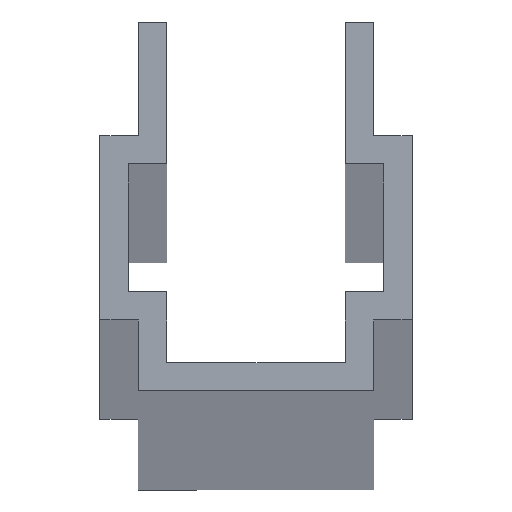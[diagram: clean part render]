
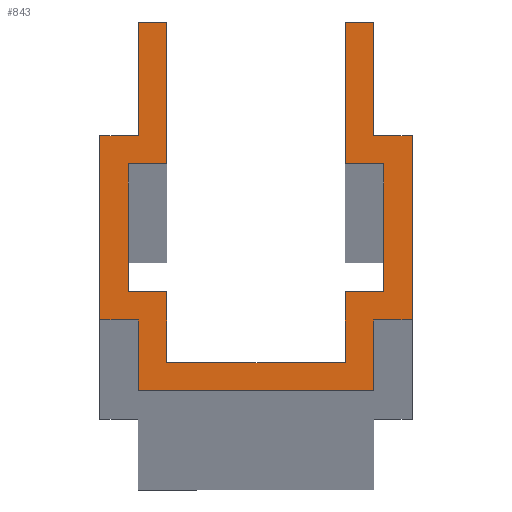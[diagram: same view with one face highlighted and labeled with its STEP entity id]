
A CAD part, top view. The second image highlights one B-rep face of the part: STEP entity #843.
In plain terms, the highlighted planar face has unit normal (0, 0, 1).
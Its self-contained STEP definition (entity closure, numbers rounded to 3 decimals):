
#73=CARTESIAN_POINT('',(-4.15,-10.5,2000.));
#74=VERTEX_POINT('',#73);
#75=CARTESIAN_POINT('',(-5.5,-10.5,2000.));
#76=VERTEX_POINT('',#75);
#77=CARTESIAN_POINT('',(-4.15,-10.5,2000.));
#78=DIRECTION('',(-1.0,0.0,0.0));
#79=VECTOR('',#78,1.35);
#80=LINE('',#77,#79);
#81=EDGE_CURVE('',#74,#76,#80,.T.);
#113=CARTESIAN_POINT('',(-5.5,-4.,2000.));
#114=VERTEX_POINT('',#113);
#115=CARTESIAN_POINT('',(-5.5,-10.5,2000.));
#116=DIRECTION('',(0.0,1.0,0.0));
#117=VECTOR('',#116,6.5);
#118=LINE('',#115,#117);
#119=EDGE_CURVE('',#76,#114,#118,.T.);
#144=CARTESIAN_POINT('',(-4.15,-4.,2000.));
#145=VERTEX_POINT('',#144);
#146=CARTESIAN_POINT('',(-5.5,-4.,2000.));
#147=DIRECTION('',(1.0,0.0,0.0));
#148=VECTOR('',#147,1.35);
#149=LINE('',#146,#148);
#150=EDGE_CURVE('',#114,#145,#149,.T.);
#175=CARTESIAN_POINT('',(-4.15,0.,2000.));
#176=VERTEX_POINT('',#175);
#177=CARTESIAN_POINT('',(-4.15,-4.,2000.));
#178=DIRECTION('',(0.0,1.0,0.0));
#179=VECTOR('',#178,4.);
#180=LINE('',#177,#179);
#181=EDGE_CURVE('',#145,#176,#180,.T.);
#206=CARTESIAN_POINT('',(-3.15,0.,2000.));
#207=VERTEX_POINT('',#206);
#208=CARTESIAN_POINT('',(-4.15,0.,2000.));
#209=DIRECTION('',(1.0,0.0,0.0));
#210=VECTOR('',#209,1.0);
#211=LINE('',#208,#210);
#212=EDGE_CURVE('',#176,#207,#211,.T.);
#237=CARTESIAN_POINT('',(-3.15,-5.,2000.));
#238=VERTEX_POINT('',#237);
#239=CARTESIAN_POINT('',(-3.15,0.,2000.));
#240=DIRECTION('',(0.0,-1.0,0.0));
#241=VECTOR('',#240,5.);
#242=LINE('',#239,#241);
#243=EDGE_CURVE('',#207,#238,#242,.T.);
#268=CARTESIAN_POINT('',(-4.5,-5.,2000.));
#269=VERTEX_POINT('',#268);
#270=CARTESIAN_POINT('',(-3.15,-5.,2000.));
#271=DIRECTION('',(-1.0,0.0,0.0));
#272=VECTOR('',#271,1.35);
#273=LINE('',#270,#272);
#274=EDGE_CURVE('',#238,#269,#273,.T.);
#299=CARTESIAN_POINT('',(-4.5,-9.5,2000.));
#300=VERTEX_POINT('',#299);
#301=CARTESIAN_POINT('',(-4.5,-5.,2000.));
#302=DIRECTION('',(0.0,-1.0,0.0));
#303=VECTOR('',#302,4.5);
#304=LINE('',#301,#303);
#305=EDGE_CURVE('',#269,#300,#304,.T.);
#330=CARTESIAN_POINT('',(-3.15,-9.5,2000.));
#331=VERTEX_POINT('',#330);
#332=CARTESIAN_POINT('',(-4.5,-9.5,2000.));
#333=DIRECTION('',(1.0,0.0,0.0));
#334=VECTOR('',#333,1.35);
#335=LINE('',#332,#334);
#336=EDGE_CURVE('',#300,#331,#335,.T.);
#361=CARTESIAN_POINT('',(-3.15,-12.,2000.));
#362=VERTEX_POINT('',#361);
#363=CARTESIAN_POINT('',(-3.15,-9.5,2000.));
#364=DIRECTION('',(0.0,-1.0,0.0));
#365=VECTOR('',#364,2.5);
#366=LINE('',#363,#365);
#367=EDGE_CURVE('',#331,#362,#366,.T.);
#392=CARTESIAN_POINT('',(3.15,-12.,2000.));
#393=VERTEX_POINT('',#392);
#394=CARTESIAN_POINT('',(-3.15,-12.,2000.));
#395=DIRECTION('',(1.0,0.0,0.0));
#396=VECTOR('',#395,6.3);
#397=LINE('',#394,#396);
#398=EDGE_CURVE('',#362,#393,#397,.T.);
#423=CARTESIAN_POINT('',(3.15,-9.5,2000.));
#424=VERTEX_POINT('',#423);
#425=CARTESIAN_POINT('',(3.15,-12.,2000.));
#426=DIRECTION('',(0.0,1.0,0.0));
#427=VECTOR('',#426,2.5);
#428=LINE('',#425,#427);
#429=EDGE_CURVE('',#393,#424,#428,.T.);
#454=CARTESIAN_POINT('',(4.5,-9.5,2000.));
#455=VERTEX_POINT('',#454);
#456=CARTESIAN_POINT('',(3.15,-9.5,2000.));
#457=DIRECTION('',(1.0,0.0,0.0));
#458=VECTOR('',#457,1.35);
#459=LINE('',#456,#458);
#460=EDGE_CURVE('',#424,#455,#459,.T.);
#485=CARTESIAN_POINT('',(4.5,-5.,2000.));
#486=VERTEX_POINT('',#485);
#487=CARTESIAN_POINT('',(4.5,-9.5,2000.));
#488=DIRECTION('',(0.0,1.0,0.0));
#489=VECTOR('',#488,4.5);
#490=LINE('',#487,#489);
#491=EDGE_CURVE('',#455,#486,#490,.T.);
#516=CARTESIAN_POINT('',(3.15,-5.,2000.));
#517=VERTEX_POINT('',#516);
#518=CARTESIAN_POINT('',(4.5,-5.,2000.));
#519=DIRECTION('',(-1.0,0.0,0.0));
#520=VECTOR('',#519,1.35);
#521=LINE('',#518,#520);
#522=EDGE_CURVE('',#486,#517,#521,.T.);
#547=CARTESIAN_POINT('',(3.15,0.,2000.));
#548=VERTEX_POINT('',#547);
#549=CARTESIAN_POINT('',(3.15,-5.,2000.));
#550=DIRECTION('',(0.0,1.0,0.0));
#551=VECTOR('',#550,5.);
#552=LINE('',#549,#551);
#553=EDGE_CURVE('',#517,#548,#552,.T.);
#578=CARTESIAN_POINT('',(4.15,0.,2000.));
#579=VERTEX_POINT('',#578);
#580=CARTESIAN_POINT('',(3.15,0.,2000.));
#581=DIRECTION('',(1.0,0.0,0.0));
#582=VECTOR('',#581,1.);
#583=LINE('',#580,#582);
#584=EDGE_CURVE('',#548,#579,#583,.T.);
#609=CARTESIAN_POINT('',(4.15,-4.,2000.));
#610=VERTEX_POINT('',#609);
#611=CARTESIAN_POINT('',(4.15,0.,2000.));
#612=DIRECTION('',(0.0,-1.0,0.0));
#613=VECTOR('',#612,4.);
#614=LINE('',#611,#613);
#615=EDGE_CURVE('',#579,#610,#614,.T.);
#640=CARTESIAN_POINT('',(5.5,-4.,2000.));
#641=VERTEX_POINT('',#640);
#642=CARTESIAN_POINT('',(4.15,-4.,2000.));
#643=DIRECTION('',(1.0,0.0,0.0));
#644=VECTOR('',#643,1.35);
#645=LINE('',#642,#644);
#646=EDGE_CURVE('',#610,#641,#645,.T.);
#671=CARTESIAN_POINT('',(5.5,-10.5,2000.));
#672=VERTEX_POINT('',#671);
#673=CARTESIAN_POINT('',(5.5,-4.,2000.));
#674=DIRECTION('',(0.0,-1.0,0.0));
#675=VECTOR('',#674,6.5);
#676=LINE('',#673,#675);
#677=EDGE_CURVE('',#641,#672,#676,.T.);
#702=CARTESIAN_POINT('',(4.15,-10.5,2000.));
#703=VERTEX_POINT('',#702);
#704=CARTESIAN_POINT('',(5.5,-10.5,2000.));
#705=DIRECTION('',(-1.0,0.0,0.0));
#706=VECTOR('',#705,1.35);
#707=LINE('',#704,#706);
#708=EDGE_CURVE('',#672,#703,#707,.T.);
#733=CARTESIAN_POINT('',(4.15,-13.0,2000.));
#734=VERTEX_POINT('',#733);
#735=CARTESIAN_POINT('',(4.15,-10.5,2000.));
#736=DIRECTION('',(0.0,-1.0,0.0));
#737=VECTOR('',#736,2.5);
#738=LINE('',#735,#737);
#739=EDGE_CURVE('',#703,#734,#738,.T.);
#764=CARTESIAN_POINT('',(-4.15,-13.,2000.));
#765=VERTEX_POINT('',#764);
#766=CARTESIAN_POINT('',(4.15,-13.0,2000.));
#767=DIRECTION('',(-1.0,0.0,0.0));
#768=VECTOR('',#767,8.3);
#769=LINE('',#766,#768);
#770=EDGE_CURVE('',#734,#765,#769,.T.);
#795=CARTESIAN_POINT('',(-4.15,-13.,2000.));
#796=DIRECTION('',(0.0,1.0,0.0));
#797=VECTOR('',#796,2.5);
#798=LINE('',#795,#797);
#799=EDGE_CURVE('',#765,#74,#798,.T.);
#812=CARTESIAN_POINT('',(0.,-7.426,2000.));
#813=DIRECTION('',(0.0,0.0,1.0));
#814=DIRECTION('',(1.0,0.0,0.0));
#815=AXIS2_PLACEMENT_3D('',#812,#813,#814);
#816=PLANE('',#815);
#817=ORIENTED_EDGE('',*,*,#81,.F.);
#818=ORIENTED_EDGE('',*,*,#799,.F.);
#819=ORIENTED_EDGE('',*,*,#770,.F.);
#820=ORIENTED_EDGE('',*,*,#739,.F.);
#821=ORIENTED_EDGE('',*,*,#708,.F.);
#822=ORIENTED_EDGE('',*,*,#677,.F.);
#823=ORIENTED_EDGE('',*,*,#646,.F.);
#824=ORIENTED_EDGE('',*,*,#615,.F.);
#825=ORIENTED_EDGE('',*,*,#584,.F.);
#826=ORIENTED_EDGE('',*,*,#553,.F.);
#827=ORIENTED_EDGE('',*,*,#522,.F.);
#828=ORIENTED_EDGE('',*,*,#491,.F.);
#829=ORIENTED_EDGE('',*,*,#460,.F.);
#830=ORIENTED_EDGE('',*,*,#429,.F.);
#831=ORIENTED_EDGE('',*,*,#398,.F.);
#832=ORIENTED_EDGE('',*,*,#367,.F.);
#833=ORIENTED_EDGE('',*,*,#336,.F.);
#834=ORIENTED_EDGE('',*,*,#305,.F.);
#835=ORIENTED_EDGE('',*,*,#274,.F.);
#836=ORIENTED_EDGE('',*,*,#243,.F.);
#837=ORIENTED_EDGE('',*,*,#212,.F.);
#838=ORIENTED_EDGE('',*,*,#181,.F.);
#839=ORIENTED_EDGE('',*,*,#150,.F.);
#840=ORIENTED_EDGE('',*,*,#119,.F.);
#841=EDGE_LOOP('',(#817,#818,#819,#820,#821,#822,#823,#824,#825,#826,#827,#828,#829,#830,#831,#832,#833,#834,#835,#836,#837,#838,#839,#840));
#842=FACE_OUTER_BOUND('',#841,.T.);
#843=ADVANCED_FACE('',(#842),#816,.T.);
